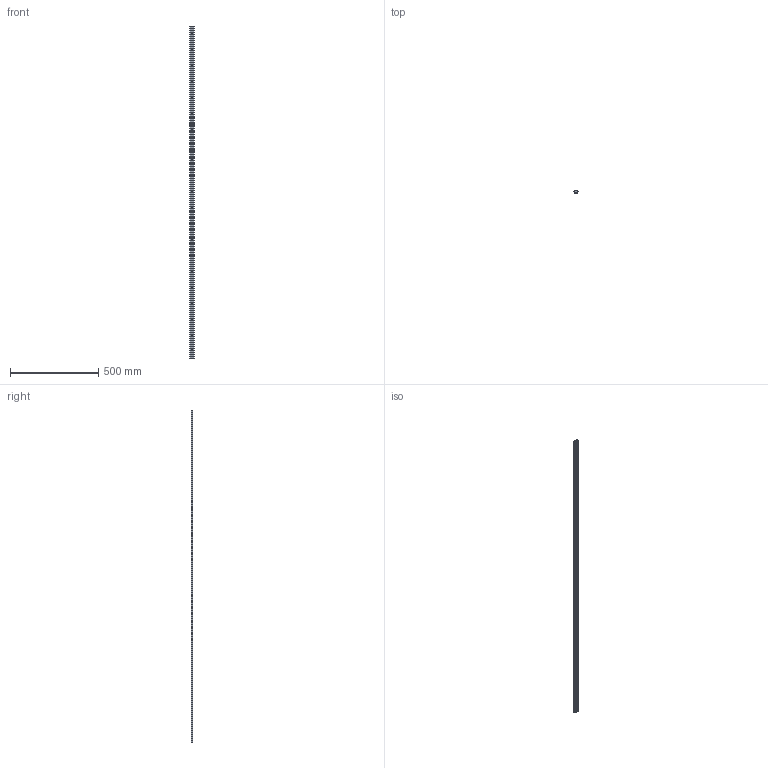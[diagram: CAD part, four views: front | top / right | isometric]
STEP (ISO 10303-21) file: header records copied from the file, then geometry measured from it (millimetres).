
FILE_DESCRIPTION(('STEP AP203'),'1');
FILE_NAME('slide_nv28l1886p2.stp','2022-07-01T04:24:58',('TraceParts'),('TraceParts S.A.'),'Spatial InterOp 3D',' ',' ');
FILE_SCHEMA(('CONFIG_CONTROL_DESIGN'));
Length unit declared in the file: millimetre
Products named in the file (1): 1
Bounding box: 27.63 x 10.41 x 1886 mm (x, y, z)
Volume: 391443.1 mm3; surface area: 147365.3 mm2
Topology: 1 solids, 1 shells, 133 faces, 330 edges, 220 vertices
Faces by surface type: cylinder 96, plane 37
Entity records: 4184 total; most frequent: DIRECTION 790, CARTESIAN_POINT 684, ORIENTED_EDGE 660, EDGE_CURVE 330, AXIS2_PLACEMENT_3D 326, VERTEX_POINT 220, EDGE_LOOP 196, CIRCLE 192
